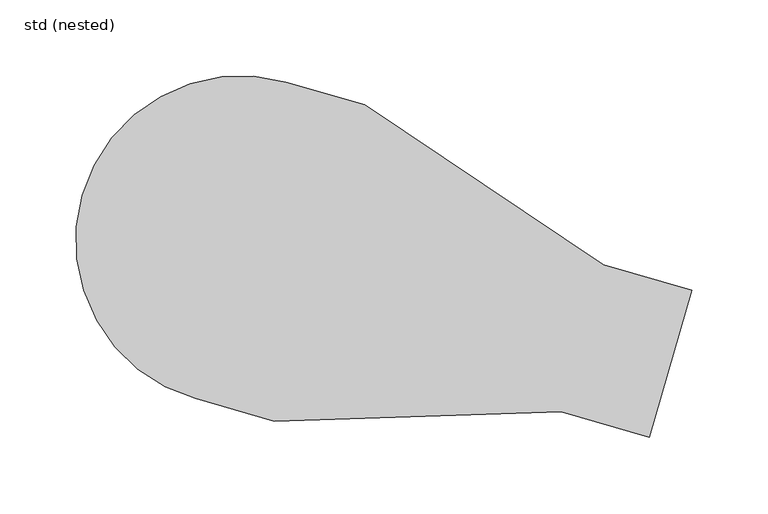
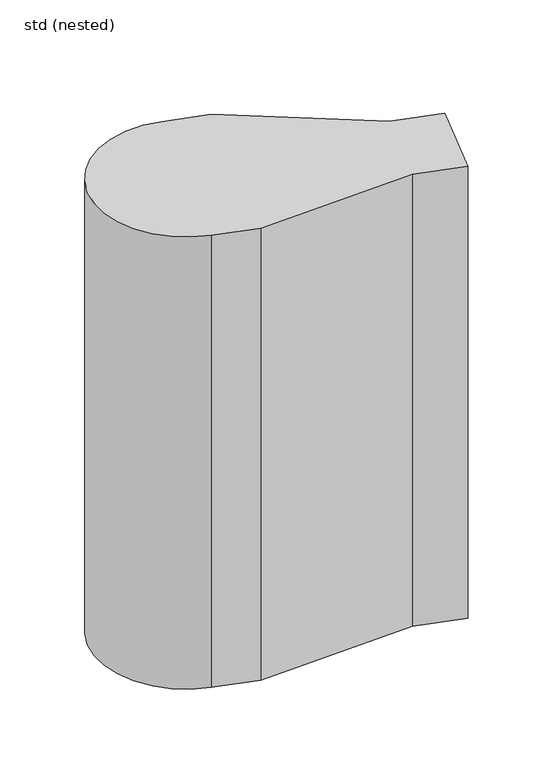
"""IFC4 building model written with IfcOpenShell, lengths in millimetres: unitary equipment geometry, ZZZ_do not use_ME_WPB_pump muliflex_ACO -SH : std (nested)."""

from ifc_helpers import new_model, si_unit, point, frame, frame_2d, origin, place, context, project, spatial, polyline, circle_curve, trimmed, segment, composite_curve, outline, extrude, source, transform, mapped, element, save


def std_nested_5edb1bc4(model_context):
    return source(origin(), model_context, "Body", "SweptSolid", [
        extrude(outline(composite_curve([segment(polyline([(-72.2856911, 247.8320877), (-20.617875, 233.0165799), (135.3585052, 128.473855), (193.034207, 111.9356136), (165.4704714, 15.809444), (107.7947696, 32.3476854), (-79.8799065, 26.3453152), (-131.5477226, 41.1608231)]), True, "CONTINUOUS"), segment(trimmed(circle_curve(frame_2d((-101.9167069, 144.4964554)), 107.5), [point((-131.5477226, 41.1608231))], [point((-72.2856911, 247.8320877))], False, "CARTESIAN"), True, "CONTINUOUS")], self_intersect=False)), frame((0.0, 0.0, 44.0), z_axis=(0.0, 0.0, 1.0), x_axis=(1.0, 0.0, 0.0)), (0.0, 0.0, 1.0), 581.0),
    ])


if __name__ == "__main__":
    model = new_model("IFC4")
    model_context = context("Model", 3, world=origin())
    ifc_project = project(units=[si_unit("LENGTHUNIT", "METRE", prefix="MILLI")], contexts=[model_context])
    site = spatial("IfcSite", under=ifc_project)
    building = spatial("IfcBuilding", under=site)
    placement = place(None, origin())
    std_nested_shape = std_nested_5edb1bc4(model_context)
    element("IfcUnitaryEquipment", 1, ObjectType="ZZZ_do not use_ME_WPB_pump muliflex_ACO -SH : std (nested)", at=placement, inside=building, context=model_context, shape_type="MappedRepresentation", body=[
        mapped(std_nested_shape, transform((0.0, 0.0, 0.0), x_axis=(1.0, 0.0, 0.0), y_axis=(0.0, 1.0, 0.0), z_axis=(0.0, 0.0, 1.0))),
    ])
    save(model, "model.ifc")
